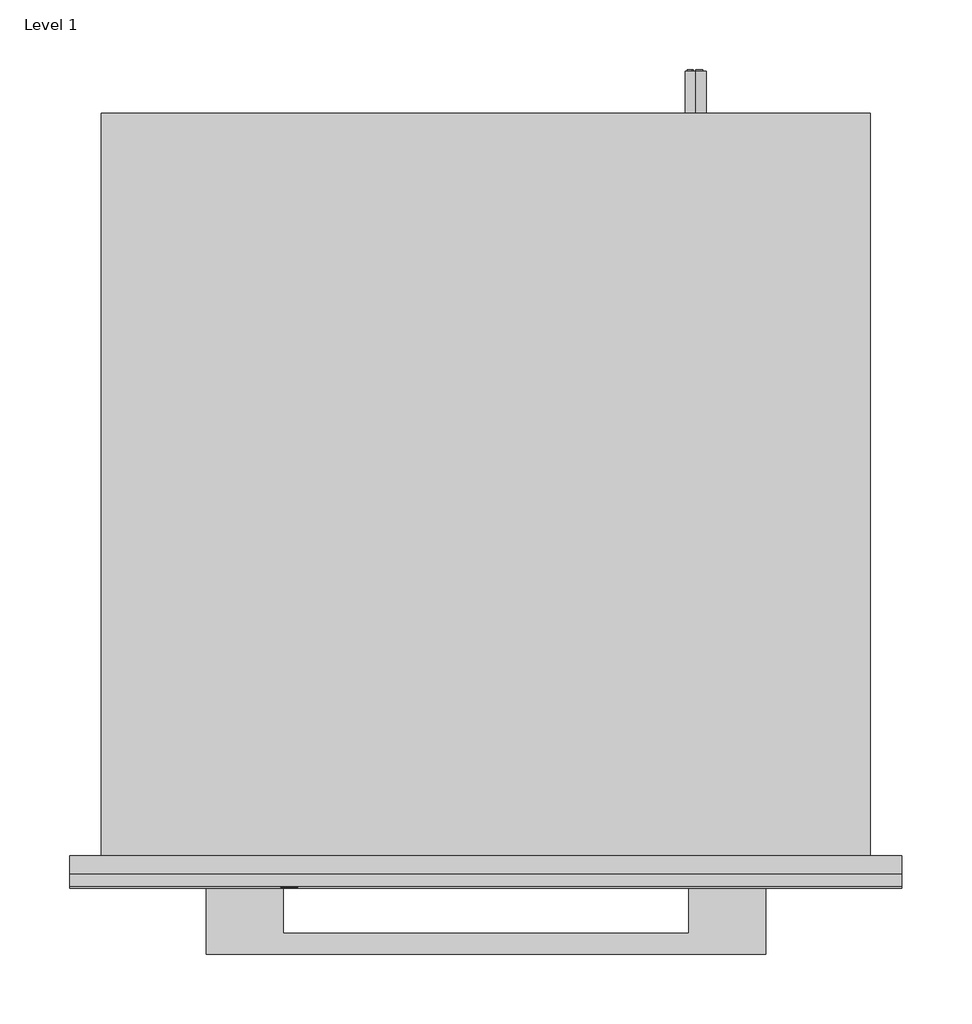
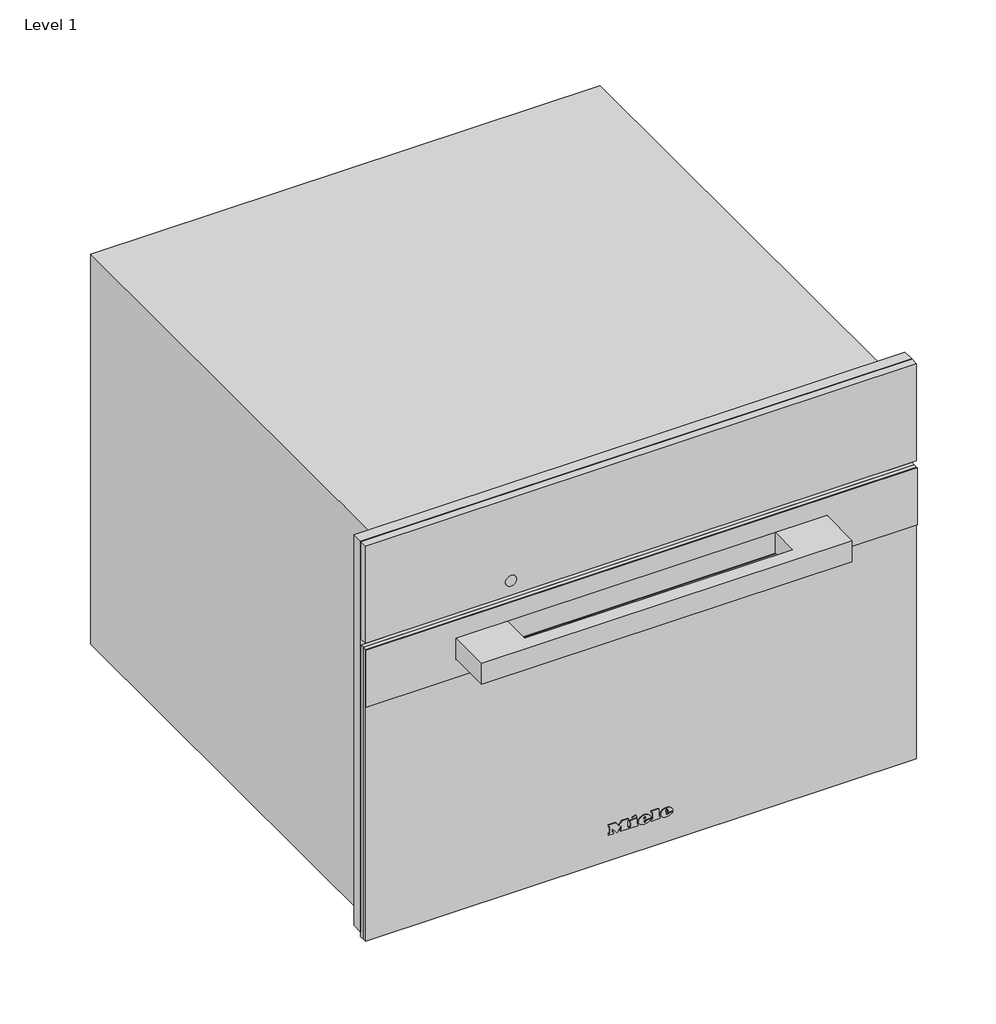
# One storey: 1 proxy.
"""IFC4 building model written with IfcOpenShell, lengths in millimetres."""

from ifc_helpers import new_model, si_unit, origin, place, context, project, spatial, transform, mapped, element, save
from components import specialty_equipment_aa93c1d3

model = new_model("IFC4")

# Units and contexts
model_context = context("Model", 3, world=origin())
ifc_project = project(units=[si_unit("LENGTHUNIT", "METRE", prefix="MILLI")], contexts=[model_context])

# Site, building, storey
site = spatial("IfcSite", under=ifc_project)
building = spatial("IfcBuilding", under=site)
storey = spatial("IfcBuildingStorey", under=building, Name="Level 1", Elevation=0.0)

# Proxy
placement = place(None, origin())
specialty_equipment_shape = specialty_equipment_aa93c1d3(model_context)
element("IfcBuildingElementProxy", 1, Name="11106520_D_DGM7440_EDST-CLST : 23744044_D_11106520_DGM7440_EDST-CLST", ObjectType="11106520_D_DGM7440_EDST-CLST : 23744044_D_11106520_DGM7440_EDST-CLST", at=placement, inside=storey, context=model_context, shape_type="MappedRepresentation", body=[
    mapped(specialty_equipment_shape, transform((0.0, 0.0, 0.0), x_axis=(1.0, 0.0, 0.0), y_axis=(0.0, 1.0, 0.0), z_axis=(0.0, 0.0, 1.0))),
])

save(model, "model.ifc")
